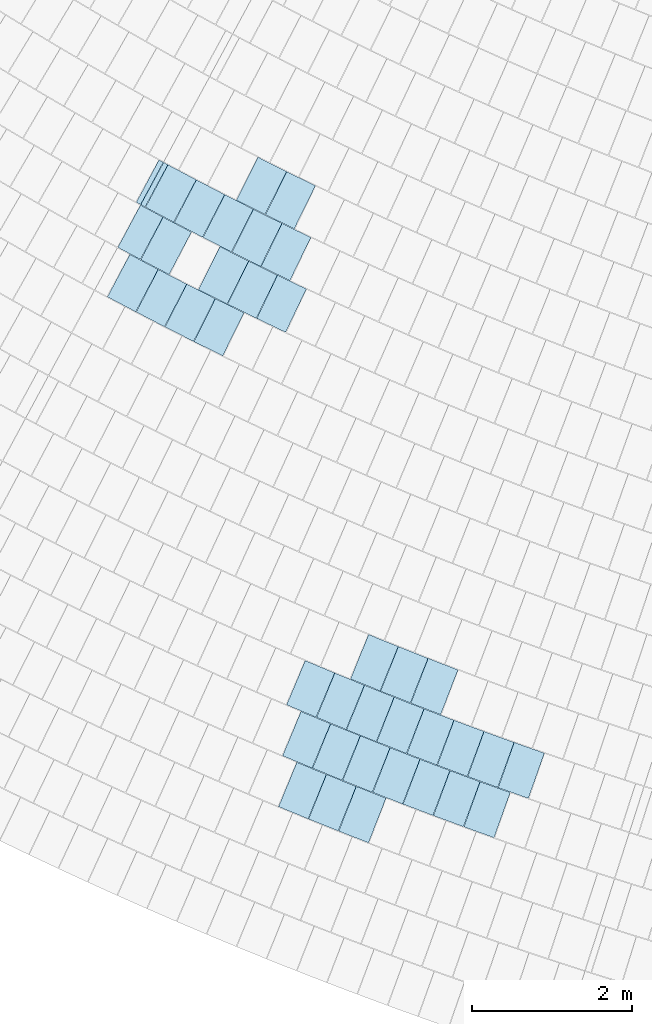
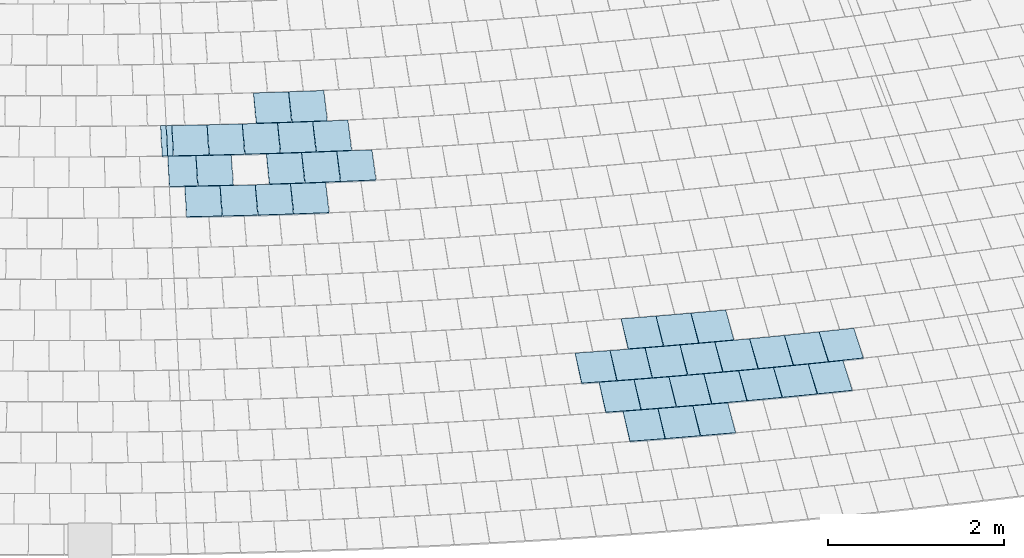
# One storey, part 107 of 438: 39 slabs.
"""IFC2X3 building model written with IfcOpenShell, lengths in millimetres."""

from ifc_helpers import new_model, entity, si_unit, converted_unit, derived_unit, direction, frame, origin, place, context, subcontext, project, spatial, polyline, outline, extrude, material, layer, layer_set, layer_usage, type_object, element, save


model = new_model("IFC2X3")

# Units and contexts
model_context = context("Model", 3, precision=0.01, world=origin(), true_north=direction((6.123031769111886e-17, 1.0)))
body_context = subcontext(model_context, "Body", "Model", "MODEL_VIEW")
ifc_project = project(units=[si_unit("LENGTHUNIT", "METRE", prefix="MILLI"), si_unit("AREAUNIT", "SQUARE_METRE"), si_unit("VOLUMEUNIT", "CUBIC_METRE"), converted_unit("PLANEANGLEUNIT", "DEGREE", entity("IfcRatioMeasure", 0.017453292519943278), si_unit("PLANEANGLEUNIT", "RADIAN"), dimensions=[0, 0, 0, 0, 0, 0, 0]), si_unit("MASSUNIT", "GRAM", prefix="KILO"), derived_unit("MASSDENSITYUNIT", [(si_unit("MASSUNIT", "GRAM", prefix="KILO"), 1), (si_unit("LENGTHUNIT", "METRE"), -3)]), derived_unit("MOMENTOFINERTIAUNIT", [(si_unit("LENGTHUNIT", "METRE"), 4)]), si_unit("TIMEUNIT", "SECOND"), si_unit("FREQUENCYUNIT", "HERTZ"), si_unit("THERMODYNAMICTEMPERATUREUNIT", "DEGREE_CELSIUS"), derived_unit("THERMALTRANSMITTANCEUNIT", [(si_unit("MASSUNIT", "GRAM", prefix="KILO"), 1), (si_unit("THERMODYNAMICTEMPERATUREUNIT", "KELVIN"), -1), (si_unit("TIMEUNIT", "SECOND"), -3)]), derived_unit("THERMALCONDUCTANCEUNIT", [(si_unit("MASSUNIT", "GRAM", prefix="KILO"), 1), (si_unit("LENGTHUNIT", "METRE"), 1), (si_unit("THERMODYNAMICTEMPERATUREUNIT", "KELVIN"), -1), (si_unit("TIMEUNIT", "SECOND"), -3)]), derived_unit("VOLUMETRICFLOWRATEUNIT", [(si_unit("LENGTHUNIT", "METRE"), 3), (si_unit("TIMEUNIT", "SECOND"), -1)]), derived_unit("MASSFLOWRATEUNIT", [(si_unit("MASSUNIT", "GRAM", prefix="KILO"), 1), (si_unit("TIMEUNIT", "SECOND"), -1)]), derived_unit("ROTATIONALFREQUENCYUNIT", [(si_unit("TIMEUNIT", "SECOND"), -1)]), si_unit("ELECTRICCURRENTUNIT", "AMPERE"), si_unit("ELECTRICVOLTAGEUNIT", "VOLT"), si_unit("POWERUNIT", "WATT"), converted_unit("FORCEUNIT", "KIP", entity("IfcRatioMeasure", 2.088543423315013e-05), si_unit("FORCEUNIT", "NEWTON"), dimensions=[1, 1, -2, 0, 0, 0, 0]), si_unit("ILLUMINANCEUNIT", "LUX"), si_unit("LUMINOUSFLUXUNIT", "LUMEN"), si_unit("LUMINOUSINTENSITYUNIT", "CANDELA"), derived_unit("USERDEFINED", [(si_unit("MASSUNIT", "GRAM", prefix="KILO"), -1), (si_unit("LENGTHUNIT", "METRE"), -2), (si_unit("TIMEUNIT", "SECOND"), 3), (si_unit("LUMINOUSFLUXUNIT", "LUMEN"), 1)]), derived_unit("USERDEFINED", [(si_unit("MASSUNIT", "GRAM", prefix="KILO"), 1), (si_unit("LENGTHUNIT", "METRE"), 3), (si_unit("TIMEUNIT", "SECOND"), -3), (si_unit("ELECTRICCURRENTUNIT", "AMPERE"), -2)]), derived_unit("USERDEFINED", [(si_unit("LENGTHUNIT", "METRE"), 2), (si_unit("TIMEUNIT", "SECOND"), -2)]), derived_unit("SOUNDPOWERUNIT", [(si_unit("MASSUNIT", "GRAM", prefix="KILO"), 1), (si_unit("LENGTHUNIT", "METRE"), 2), (si_unit("TIMEUNIT", "SECOND"), -3)]), derived_unit("SOUNDPRESSUREUNIT", [(si_unit("MASSUNIT", "GRAM", prefix="KILO"), 1), (si_unit("LENGTHUNIT", "METRE"), -1), (si_unit("TIMEUNIT", "SECOND"), -2)]), derived_unit("LINEARVELOCITYUNIT", [(si_unit("LENGTHUNIT", "METRE"), 1), (si_unit("TIMEUNIT", "SECOND"), -1)]), si_unit("PRESSUREUNIT", "PASCAL"), derived_unit("USERDEFINED", [(si_unit("LENGTHUNIT", "METRE"), -2), (si_unit("MASSUNIT", "GRAM", prefix="KILO"), 1), (si_unit("TIMEUNIT", "SECOND"), -2)]), derived_unit("LINEARFORCEUNIT", [(si_unit("MASSUNIT", "GRAM", prefix="KILO"), 1), (si_unit("LENGTHUNIT", "METRE"), 1), (si_unit("TIMEUNIT", "SECOND"), -2), (si_unit("LENGTHUNIT", "METRE"), -1)]), derived_unit("PLANARFORCEUNIT", [(si_unit("MASSUNIT", "GRAM", prefix="KILO"), 1), (si_unit("LENGTHUNIT", "METRE"), 1), (si_unit("TIMEUNIT", "SECOND"), -2), (si_unit("LENGTHUNIT", "METRE"), -2)]), derived_unit("SPECIFICHEATCAPACITYUNIT", [(si_unit("LENGTHUNIT", "METRE"), 2), (si_unit("TIMEUNIT", "SECOND"), -2), (si_unit("THERMODYNAMICTEMPERATUREUNIT", "KELVIN"), -1)]), derived_unit("VAPORPERMEABILITYUNIT", [(si_unit("TIMEUNIT", "SECOND"), 1), (si_unit("LENGTHUNIT", "METRE"), -1)]), derived_unit("DYNAMICVISCOSITYUNIT", [(si_unit("MASSUNIT", "GRAM", prefix="KILO"), 1), (si_unit("LENGTHUNIT", "METRE"), -1), (si_unit("TIMEUNIT", "SECOND"), -1)]), derived_unit("THERMALEXPANSIONCOEFFICIENTUNIT", [(si_unit("THERMODYNAMICTEMPERATUREUNIT", "KELVIN"), -1)])], contexts=[model_context])

# Site, building, storey
site_placement = place(None, frame((0.0, 0.0, 0.0), z_axis=(0.0, 0.0, 1.0), x_axis=(0.8191520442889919, 0.5735764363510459, 0.0)))
site = spatial("IfcSite", under=ifc_project, at=site_placement, Name="Default", CompositionType="ELEMENT")
building_placement = place(site_placement, origin())
building = spatial("IfcBuilding", under=site, at=building_placement, CompositionType="ELEMENT")
storey_placement = place(building_placement, origin())
storey = spatial("IfcBuildingStorey", under=building, at=storey_placement, Name="PLAN", CompositionType="ELEMENT", Elevation=0.0)

# Slabs
ifc_material = material(Name="Paint-01")
ifc_layer = layer(ifc_material, 20.00000000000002)
ifc_layer_set = layer_set([ifc_layer], Name="Floor:Slab-179:1000")
ifc_layer_usage = layer_usage(ifc_layer_set, "AXIS3", "POSITIVE", 0.0)
slab_type = type_object("IfcSlabType", Name="Floor:Slab-179:1000", PredefinedType="FLOOR", material=ifc_layer_set)
slab_1_placement = place(storey_placement, origin())
element("IfcSlab", 1, at=slab_1_placement, inside=storey, type_object=slab_type, material=ifc_layer_usage, Name="Floor:Slab-179:1000", ObjectType="Floor:Slab-179:1000", PredefinedType="FLOOR", context=body_context, shape_type="SweptSolid", body=[
    extrude(outline(polyline([(-299.9999988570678, -30.95622042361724), (299.9999985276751, -30.956220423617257), (299.9999988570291, 30.956220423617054), (-299.99999852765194, 30.95622042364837), (-299.9999988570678, -30.95622042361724)])), frame((-79903.60459932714, -87798.35302587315, 520.0), z_axis=(0.0, 0.0, -1.0), x_axis=(0.8921664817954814, 0.4517067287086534, 0.0)), (0.0, 0.0, 1.0), 20.000000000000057),
])
slab_2_placement = place(storey_placement, origin())
element("IfcSlab", 2, at=slab_2_placement, inside=storey, type_object=slab_type, material=ifc_layer_usage, Name="Floor:Slab-179:1000", ObjectType="Floor:Slab-179:1000", PredefinedType="FLOOR", context=body_context, shape_type="SweptSolid", body=[
    extrude(outline(polyline([(-200.00000453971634, -299.99999869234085), (200.00000134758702, -299.99999869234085), (200.00000453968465, 299.9999986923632), (-200.00000134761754, 299.9999986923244), (-200.00000453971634, -299.99999869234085)])), frame((-78787.41564259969, -88633.97235444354, 520.0), z_axis=(0.0, 0.0, -1.0), x_axis=(0.47364346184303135, -0.8807166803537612, 0.0)), (0.0, 0.0, 1.0), 19.99999999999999),
])
slab_3_placement = place(storey_placement, origin())
element("IfcSlab", 3, at=slab_3_placement, inside=storey, type_object=slab_type, material=ifc_layer_usage, Name="Floor:Slab-179:1000", ObjectType="Floor:Slab-179:1000", PredefinedType="FLOOR", context=body_context, shape_type="SweptSolid", body=[
    extrude(outline(polyline([(-200.00000453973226, -299.9999986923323), (200.0000013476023, -299.9999986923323), (200.00000453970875, 299.99999869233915), (-200.00000134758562, 299.9999986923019), (-200.00000453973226, -299.9999986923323)])), frame((-78595.00518241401, -88987.82879542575, 520.0), z_axis=(0.0, 0.0, -1.0), x_axis=(0.48174549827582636, -0.8763111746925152, 0.0)), (0.0, 0.0, 1.0), 19.99999999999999),
])
slab_4_placement = place(storey_placement, origin())
element("IfcSlab", 4, at=slab_4_placement, inside=storey, type_object=slab_type, material=ifc_layer_usage, Name="Floor:Slab-179:1000", ObjectType="Floor:Slab-179:1000", PredefinedType="FLOOR", context=body_context, shape_type="SweptSolid", body=[
    extrude(outline(polyline([(-30.948560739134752, -299.99999869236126), (30.948557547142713, -299.99999869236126), (30.94856073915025, 299.999998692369), (-30.948557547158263, 299.99999869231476), (-30.948560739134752, -299.99999869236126)])), frame((-79874.97191882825, -87855.34286787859, 520.0), z_axis=(0.0, 0.0, -1.0), x_axis=(0.4461711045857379, -0.8949476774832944, 0.0)), (0.0, 0.0, 1.0), 20.000000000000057),
])
slab_5_placement = place(storey_placement, origin())
element("IfcSlab", 5, at=slab_5_placement, inside=storey, type_object=slab_type, material=ifc_layer_usage, Name="Floor:Slab-179:1000", ObjectType="Floor:Slab-179:1000", PredefinedType="FLOOR", context=body_context, shape_type="SweptSolid", body=[
    extrude(outline(polyline([(-200.00000453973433, -299.9999986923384), (200.0000013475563, -299.9999986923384), (200.00000453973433, 299.9999986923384), (-200.00000134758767, 299.9999986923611), (-200.00000453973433, -299.9999986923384)])), frame((-79584.49260853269, -88421.57949068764, 520.0), z_axis=(0.0, 0.0, -1.0), x_axis=(0.4623754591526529, -0.8866842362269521, 0.0)), (0.0, 0.0, 1.0), 20.000000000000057),
])
slab_6_placement = place(storey_placement, origin())
element("IfcSlab", 6, at=slab_6_placement, inside=storey, type_object=slab_type, material=ifc_layer_usage, Name="Floor:Slab-179:1000", ObjectType="Floor:Slab-179:1000", PredefinedType="FLOOR", context=body_context, shape_type="SweptSolid", body=[
    extrude(outline(polyline([(-200.00000453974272, -299.9999986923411), (200.00000134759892, -299.99999869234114), (200.00000453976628, 299.99999869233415), (-200.00000134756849, 299.9999986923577), (-200.00000453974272, -299.9999986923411)])), frame((-79205.59685982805, -89132.33417369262, 520.0), z_axis=(0.0, 0.0, -1.0), x_axis=(0.47842682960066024, -0.8781274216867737, 0.0)), (0.0, 0.0, 1.0), 20.000000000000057),
])
slab_7_placement = place(storey_placement, origin())
element("IfcSlab", 7, at=slab_7_placement, inside=storey, type_object=slab_type, material=ifc_layer_usage, Name="Floor:Slab-179:1000", ObjectType="Floor:Slab-179:1000", PredefinedType="FLOOR", context=body_context, shape_type="SweptSolid", body=[
    extrude(outline(polyline([(-200.0000045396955, -299.9999986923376), (200.00000134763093, -299.9999986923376), (200.00000453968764, 299.999998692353), (-200.0000013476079, 299.99999869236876), (-200.0000045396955, -299.9999986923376)])), frame((-79769.07668731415, -88063.64706164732, 520.0), z_axis=(0.0, 0.0, -1.0), x_axis=(0.4542920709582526, -0.890852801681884, 0.0)), (0.0, 0.0, 1.0), 20.000000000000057),
])
slab_8_placement = place(storey_placement, origin())
element("IfcSlab", 8, at=slab_8_placement, inside=storey, type_object=slab_type, material=ifc_layer_usage, Name="Floor:Slab-179:1000", ObjectType="Floor:Slab-179:1000", PredefinedType="FLOOR", context=body_context, shape_type="SweptSolid", body=[
    extrude(outline(polyline([(-200.00000453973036, -299.9999986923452), (200.00000134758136, -299.9999986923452), (200.00000453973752, 299.9999986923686), (-200.00000134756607, 299.9999986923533), (-200.00000453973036, -299.9999986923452)])), frame((-79396.66082034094, -88777.81835050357, 520.0), z_axis=(0.0, 0.0, -1.0), x_axis=(0.4704206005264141, -0.8824423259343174, 0.0)), (0.0, 0.0, 1.0), 20.000000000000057),
])
slab_9_placement = place(storey_placement, origin())
element("IfcSlab", 9, at=slab_9_placement, inside=storey, type_object=slab_type, material=ifc_layer_usage, Name="Floor:Slab-179:1000", ObjectType="Floor:Slab-179:1000", PredefinedType="FLOOR", context=body_context, shape_type="SweptSolid", body=[
    extrude(outline(polyline([(-200.00000453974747, -299.9999986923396), (200.0000013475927, -299.9999986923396), (200.0000045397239, 299.9999986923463), (-200.0000013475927, 299.9999986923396), (-200.00000453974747, -299.9999986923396)])), frame((-79011.31653144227, -89485.09763537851, 520.0), z_axis=(0.0, 0.0, -1.0), x_axis=(0.4863934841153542, -0.8737398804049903, 0.0)), (0.0, 0.0, 1.0), 20.000000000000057),
])
slab_10_placement = place(storey_placement, origin())
element("IfcSlab", 10, at=slab_10_placement, inside=storey, type_object=slab_type, material=ifc_layer_usage, Name="Floor:Slab-179:1000", ObjectType="Floor:Slab-179:1000", PredefinedType="FLOOR", context=body_context, shape_type="SweptSolid", body=[
    extrude(outline(polyline([(-159.83571431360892, -299.9999986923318), (159.83571112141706, -299.9999986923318), (159.83571431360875, 299.9999986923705), (-159.83571112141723, 299.9999986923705), (-159.83571431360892, -299.9999986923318)])), frame((-80357.2576587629, -88241.73520474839, 520.0), z_axis=(0.0, 0.0, -1.0), x_axis=(0.45133787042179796, -0.8923531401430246, 0.0)), (0.0, 0.0, 1.0), 20.000000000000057),
])
slab_11_placement = place(storey_placement, origin())
element("IfcSlab", 11, at=slab_11_placement, inside=storey, type_object=slab_type, material=ifc_layer_usage, Name="Floor:Slab-179:1000", ObjectType="Floor:Slab-179:1000", PredefinedType="FLOOR", context=body_context, shape_type="SweptSolid", body=[
    extrude(outline(polyline([(-200.00000453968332, -299.9999986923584), (200.00000134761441, -299.99999869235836), (200.00000453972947, 299.9999986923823), (-200.0000013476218, 299.99999869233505), (-200.00000453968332, -299.9999986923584)])), frame((-80192.02714597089, -88564.41498265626, 520.0), z_axis=(0.0, 0.0, -1.0), x_axis=(0.45932540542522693, -0.8882680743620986, 0.0)), (0.0, 0.0, 1.0), 20.000000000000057),
])
slab_12_placement = place(storey_placement, origin())
element("IfcSlab", 12, at=slab_12_placement, inside=storey, type_object=slab_type, material=ifc_layer_usage, Name="Floor:Slab-179:1000", ObjectType="Floor:Slab-179:1000", PredefinedType="FLOOR", context=body_context, shape_type="SweptSolid", body=[
    extrude(outline(polyline([(-200.00000453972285, -299.9999986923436), (200.0000013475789, -299.99999869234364), (200.00000453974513, 299.9999986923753), (-200.00000134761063, 299.99999869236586), (-200.00000453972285, -299.9999986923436)])), frame((-79815.69860075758, -89276.44902668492, 520.0), z_axis=(0.0, 0.0, -1.0), x_axis=(0.4751889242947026, -0.8798837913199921, 0.0)), (0.0, 0.0, 1.0), 20.000000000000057),
])
slab_13_placement = place(storey_placement, origin())
element("IfcSlab", 13, at=slab_13_placement, inside=storey, type_object=slab_type, material=ifc_layer_usage, Name="Floor:Slab-179:1000", ObjectType="Floor:Slab-179:1000", PredefinedType="FLOOR", context=body_context, shape_type="SweptSolid", body=[
    extrude(outline(polyline([(-200.0000045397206, -299.9999986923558), (200.0000013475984, -299.9999986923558), (200.0000045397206, 299.9999986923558), (-200.0000013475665, 299.99999869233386), (-200.0000045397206, -299.9999986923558)])), frame((-79622.75852366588, -89629.90525176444, 520.0), z_axis=(0.0, 0.0, -1.0), x_axis=(0.4830636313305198, -0.8755852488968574, 0.0)), (0.0, 0.0, 1.0), 20.000000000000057),
])
slab_14_placement = place(storey_placement, origin())
element("IfcSlab", 14, at=slab_14_placement, inside=storey, type_object=slab_type, material=ifc_layer_usage, Name="Floor:Slab-179:1000", ObjectType="Floor:Slab-179:1000", PredefinedType="FLOOR", context=body_context, shape_type="SweptSolid", body=[
    extrude(outline(polyline([(-200.00000453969, -299.9999986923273), (200.0000013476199, -299.9999986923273), (200.00000453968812, 299.99999869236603), (-200.00000134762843, 299.9999986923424), (-200.00000453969, -299.9999986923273)])), frame((-79426.65519756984, -89981.6163006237, 520.0), z_axis=(0.0, 0.0, -1.0), x_axis=(0.4908994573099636, -0.8712162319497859, 0.0)), (0.0, 0.0, 1.0), 20.000000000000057),
])
slab_15_placement = place(storey_placement, origin())
element("IfcSlab", 15, at=slab_15_placement, inside=storey, type_object=slab_type, material=ifc_layer_usage, Name="Floor:Slab-179:1000", ObjectType="Floor:Slab-179:1000", PredefinedType="FLOOR", context=body_context, shape_type="SweptSolid", body=[
    extrude(outline(polyline([(-200.00000453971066, -299.9999986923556), (200.00000134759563, -299.9999986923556), (200.00000453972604, 299.9999986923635), (-200.00000134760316, 299.99999869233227), (-200.00000453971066, -299.9999986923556)])), frame((-80799.09072233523, -88707.03794588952, 520.0), z_axis=(0.0, 0.0, -1.0), x_axis=(0.4563518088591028, -0.8897994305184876, 0.0)), (0.0, 0.0, 1.0), 19.99999999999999),
])
slab_16_placement = place(storey_placement, origin())
element("IfcSlab", 16, at=slab_16_placement, inside=storey, type_object=slab_type, material=ifc_layer_usage, Name="Floor:Slab-179:1000", ObjectType="Floor:Slab-179:1000", PredefinedType="FLOOR", context=body_context, shape_type="SweptSolid", body=[
    extrude(outline(polyline([(-200.00000453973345, -299.9999986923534), (200.00000134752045, -299.9999986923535), (200.00000453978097, 299.9999986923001), (-200.0000013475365, 299.9999986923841), (-200.00000453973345, -299.9999986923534)])), frame((-80613.75613222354, -89064.50029921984, 520.0), z_axis=(0.0, 0.0, -1.0), x_axis=(0.4642098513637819, -0.8857252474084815, 0.0)), (0.0, 0.0, 1.0), 20.000000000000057),
])
slab_17_placement = place(storey_placement, origin())
element("IfcSlab", 17, at=slab_17_placement, inside=storey, type_object=slab_type, material=ifc_layer_usage, Name="Floor:Slab-179:1000", ObjectType="Floor:Slab-179:1000", PredefinedType="FLOOR", context=body_context, shape_type="SweptSolid", body=[
    extrude(outline(polyline([(-200.00000453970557, -299.9999986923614), (200.00000134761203, -299.9999986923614), (200.00000453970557, 299.9999986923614), (-200.00000134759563, 299.99999869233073), (-200.00000453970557, -299.9999986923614)])), frame((-80425.26478064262, -89420.30818940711, 520.0), z_axis=(0.0, 0.0, -1.0), x_axis=(0.4720315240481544, -0.8815816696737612, 0.0)), (0.0, 0.0, 1.0), 20.000000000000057),
])
slab_18_placement = place(storey_placement, origin())
element("IfcSlab", 18, at=slab_18_placement, inside=storey, type_object=slab_type, material=ifc_layer_usage, Name="Floor:Slab-179:1000", ObjectType="Floor:Slab-179:1000", PredefinedType="FLOOR", context=body_context, shape_type="SweptSolid", body=[
    extrude(outline(polyline([(-200.00000453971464, -299.9999986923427), (200.00000134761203, -299.9999986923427), (200.00000453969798, 299.9999986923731), (-200.0000013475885, 299.99999869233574), (-200.00000453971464, -299.9999986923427)])), frame((-80233.63143547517, -89774.43373968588, 520.0), z_axis=(0.0, 0.0, -1.0), x_axis=(0.4798162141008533, -0.8773690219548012, 0.0)), (0.0, 0.0, 1.0), 20.000000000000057),
])
slab_19_placement = place(storey_placement, origin())
element("IfcSlab", 19, at=slab_19_placement, inside=storey, type_object=slab_type, material=ifc_layer_usage, Name="Floor:Slab-179:1000", ObjectType="Floor:Slab-179:1000", PredefinedType="FLOOR", context=body_context, shape_type="SweptSolid", body=[
    extrude(outline(polyline([(-200.00000453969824, -299.9999986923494), (200.00000134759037, -299.9999986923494), (200.00000453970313, 299.99999869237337), (-200.00000134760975, 299.99999869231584), (-200.00000453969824, -299.9999986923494)])), frame((-80826.67847538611, -94651.25555229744, 520.0), z_axis=(0.0, 0.0, -1.0), x_axis=(0.5504207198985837, -0.8348874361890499, 0.0)), (0.0, 0.0, 1.0), 20.000000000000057),
])
slab_20_placement = place(storey_placement, origin())
element("IfcSlab", 20, at=slab_20_placement, inside=storey, type_object=slab_type, material=ifc_layer_usage, Name="Floor:Slab-179:1000", ObjectType="Floor:Slab-179:1000", PredefinedType="FLOOR", context=body_context, shape_type="SweptSolid", body=[
    extrude(outline(polyline([(-200.0000045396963, -299.9999986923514), (200.00000134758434, -299.9999986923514), (200.00000453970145, 299.9999986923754), (-200.00000134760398, 299.99999869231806), (-200.0000045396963, -299.9999986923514)])), frame((-81046.81900265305, -94314.30950077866, 520.0), z_axis=(0.0, 0.0, -1.0), x_axis=(0.5434755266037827, -0.8394250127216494, 0.0)), (0.0, 0.0, 1.0), 20.000000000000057),
])
slab_21_placement = place(storey_placement, origin())
element("IfcSlab", 21, at=slab_21_placement, inside=storey, type_object=slab_type, material=ifc_layer_usage, Name="Floor:Slab-179:1000", ObjectType="Floor:Slab-179:1000", PredefinedType="FLOOR", context=body_context, shape_type="SweptSolid", body=[
    extrude(outline(polyline([(-200.00000453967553, -299.9999986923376), (200.0000013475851, -299.9999986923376), (200.00000453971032, 299.9999986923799), (-200.00000134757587, 299.9999986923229), (-200.00000453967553, -299.9999986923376)])), frame((-81885.01980198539, -94125.8162695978, 520.0), z_axis=(0.0, 0.0, -1.0), x_axis=(0.5329442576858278, -0.8461503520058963, 0.0)), (0.0, 0.0, 1.0), 20.000000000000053),
])
slab_22_placement = place(storey_placement, origin())
element("IfcSlab", 22, at=slab_22_placement, inside=storey, type_object=slab_type, material=ifc_layer_usage, Name="Floor:Slab-179:1000", ObjectType="Floor:Slab-179:1000", PredefinedType="FLOOR", context=body_context, shape_type="SweptSolid", body=[
    extrude(outline(polyline([(-200.00000453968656, -299.99999869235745), (200.00000134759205, -299.99999869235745), (200.0000045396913, 299.9999986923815), (-200.00000134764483, 299.99999869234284), (-200.00000453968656, -299.99999869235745)])), frame((-80603.75020892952, -94986.36371602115, 520.0), z_axis=(0.0, 0.0, -1.0), x_axis=(0.5573280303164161, -0.8302923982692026, 0.0)), (0.0, 0.0, 1.0), 20.000000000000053),
])
slab_23_placement = place(storey_placement, origin())
element("IfcSlab", 23, at=slab_23_placement, inside=storey, type_object=slab_type, material=ifc_layer_usage, Name="Floor:Slab-179:1000", ObjectType="Floor:Slab-179:1000", PredefinedType="FLOOR", context=body_context, shape_type="SweptSolid", body=[
    extrude(outline(polyline([(-200.00000453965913, -299.9999986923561), (200.00000134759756, -299.9999986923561), (200.00000453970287, 299.99999869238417), (-200.00000134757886, 299.9999986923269), (-200.00000453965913, -299.9999986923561)])), frame((-81669.14065125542, -94465.47187127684, 520.0), z_axis=(0.0, 0.0, -1.0), x_axis=(0.5398590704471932, -0.8417554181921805, 0.0)), (0.0, 0.0, 1.0), 20.000000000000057),
])
slab_24_placement = place(storey_placement, origin())
element("IfcSlab", 24, at=slab_24_placement, inside=storey, type_object=slab_type, material=ifc_layer_usage, Name="Floor:Slab-179:1000", ObjectType="Floor:Slab-179:1000", PredefinedType="FLOOR", context=body_context, shape_type="SweptSolid", body=[
    extrude(outline(polyline([(-200.0000045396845, -299.99999869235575), (200.00000134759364, -299.99999869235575), (200.000004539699, 299.9999986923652), (-200.00000134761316, 299.9999986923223), (-200.0000045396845, -299.99999869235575)])), frame((-81450.485871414, -94803.34732573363, 520.0), z_axis=(0.0, 0.0, -1.0), x_axis=(0.5467376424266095, -0.8373039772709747, 0.0)), (0.0, 0.0, 1.0), 19.99999999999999),
])
slab_25_placement = place(storey_placement, origin())
element("IfcSlab", 25, at=slab_25_placement, inside=storey, type_object=slab_type, material=ifc_layer_usage, Name="Floor:Slab-179:1000", ObjectType="Floor:Slab-179:1000", PredefinedType="FLOOR", context=body_context, shape_type="SweptSolid", body=[
    extrude(outline(polyline([(-200.00000453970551, -299.99999869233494), (200.00000134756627, -299.999998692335), (200.0000045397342, 299.9999986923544), (-200.0000013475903, 299.9999986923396), (-200.00000453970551, -299.99999869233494)])), frame((-81004.90832299, -95473.66718758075, 520.0), z_axis=(0.0, 0.0, -1.0), x_axis=(0.5603842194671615, -0.8282327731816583, 0.0)), (0.0, 0.0, 1.0), 20.000000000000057),
])
slab_26_placement = place(storey_placement, origin())
element("IfcSlab", 26, at=slab_26_placement, inside=storey, type_object=slab_type, material=ifc_layer_usage, Name="Floor:Slab-179:1000", ObjectType="Floor:Slab-179:1000", PredefinedType="FLOOR", context=body_context, shape_type="SweptSolid", body=[
    extrude(outline(polyline([(-200.000004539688, -299.9999986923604), (200.000001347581, -299.99999869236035), (200.000004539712, 299.9999986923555), (-200.00000134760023, 299.9999986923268), (-200.000004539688, -299.9999986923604)])), frame((-81229.07014077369, -95139.41995136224, 520.0), z_axis=(0.0, 0.0, -1.0), x_axis=(0.5535795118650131, -0.83279632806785, 0.0)), (0.0, 0.0, 1.0), 19.99999999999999),
])
slab_27_placement = place(storey_placement, origin())
element("IfcSlab", 27, at=slab_27_placement, inside=storey, type_object=slab_type, material=ifc_layer_usage, Name="Floor:Slab-179:1000", ObjectType="Floor:Slab-179:1000", PredefinedType="FLOOR", context=body_context, shape_type="SweptSolid", body=[
    extrude(outline(polyline([(-299.99999762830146, -200.00000294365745), (300.0, -200.00000294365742), (299.9999976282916, 200.00000294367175), (-300.0, 200.00000294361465), (-299.99999762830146, -200.00000294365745)])), frame((-80778.01546606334, -95806.06659634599, 520.0), z_axis=(0.0, 0.0, -1.0), x_axis=(-0.8236136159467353, -0.5671513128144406, 0.0)), (0.0, 0.0, 1.0), 20.000000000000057),
])
slab_28_placement = place(storey_placement, origin())
element("IfcSlab", 28, at=slab_28_placement, inside=storey, type_object=slab_type, material=ifc_layer_usage, Name="Floor:Slab-179:1000", ObjectType="Floor:Slab-179:1000", PredefinedType="FLOOR", context=body_context, shape_type="SweptSolid", body=[
    extrude(outline(polyline([(-299.99999762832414, -200.0000029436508), (300.0, -200.00000294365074), (299.99999762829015, 200.0000029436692), (-300.0, 200.00000294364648), (-299.99999762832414, -200.0000029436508)])), frame((-80548.40680132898, -96136.59586365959, 520.0), z_axis=(0.0, 0.0, -1.0), x_axis=(-0.8189391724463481, -0.5738803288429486, 0.0)), (0.0, 0.0, 1.0), 20.000000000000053),
])
slab_29_placement = place(storey_placement, origin())
element("IfcSlab", 29, at=slab_29_placement, inside=storey, type_object=slab_type, material=ifc_layer_usage, Name="Floor:Slab-179:1000", ObjectType="Floor:Slab-179:1000", PredefinedType="FLOOR", context=body_context, shape_type="SweptSolid", body=[
    extrude(outline(polyline([(-299.99999762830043, -200.00000294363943), (300.0, -200.00000294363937), (299.9999976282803, 200.00000294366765), (-300.0, 200.00000294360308), (-299.99999762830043, -200.00000294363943)])), frame((-80316.09774243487, -96465.23280106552, 520.0), z_axis=(0.0, 0.0, -1.0), x_axis=(-0.8142097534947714, -0.58057082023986, 0.0)), (0.0, 0.0, 1.0), 20.000000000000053),
])
slab_30_placement = place(storey_placement, origin())
element("IfcSlab", 30, at=slab_30_placement, inside=storey, type_object=slab_type, material=ifc_layer_usage, Name="Floor:Slab-179:1000", ObjectType="Floor:Slab-179:1000", PredefinedType="FLOOR", context=body_context, shape_type="SweptSolid", body=[
    extrude(outline(polyline([(-200.00000453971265, -299.9999986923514), (200.00000134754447, -299.99999869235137), (200.00000453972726, 299.9999986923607), (-200.00000134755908, 299.9999986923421), (-200.00000453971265, -299.9999986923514)])), frame((-82290.6987099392, -94616.18194504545, 520.0), z_axis=(0.0, 0.0, -1.0), x_axis=(0.5363215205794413, -0.8440137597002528, 0.0)), (0.0, 0.0, 1.0), 20.000000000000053),
])
slab_31_placement = place(storey_placement, origin())
element("IfcSlab", 31, at=slab_31_placement, inside=storey, type_object=slab_type, material=ifc_layer_usage, Name="Floor:Slab-179:1000", ObjectType="Floor:Slab-179:1000", PredefinedType="FLOOR", context=body_context, shape_type="SweptSolid", body=[
    extrude(outline(polyline([(-200.00000453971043, -299.99999869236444), (200.00000134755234, -299.99999869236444), (200.00000453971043, 299.99999869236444), (-200.0000013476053, 299.99999869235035), (-200.00000453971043, -299.99999869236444)])), frame((-81853.56087604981, -95291.9646364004, 520.0), z_axis=(0.0, 0.0, -1.0), x_axis=(0.5499119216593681, -0.8352226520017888, 0.0)), (0.0, 0.0, 1.0), 20.000000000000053),
])
slab_32_placement = place(storey_placement, origin())
element("IfcSlab", 32, at=slab_32_placement, inside=storey, type_object=slab_type, material=ifc_layer_usage, Name="Floor:Slab-179:1000", ObjectType="Floor:Slab-179:1000", PredefinedType="FLOOR", context=body_context, shape_type="SweptSolid", body=[
    extrude(outline(polyline([(-200.00000453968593, -299.9999986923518), (200.0000013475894, -299.9999986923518), (200.0000045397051, 299.99999869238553), (-200.00000134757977, 299.99999869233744), (-200.00000453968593, -299.9999986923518)])), frame((-81630.9044965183, -95627.18056877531, 520.0), z_axis=(0.0, 0.0, -1.0), x_axis=(0.5566533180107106, -0.8307448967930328, 0.0)), (0.0, 0.0, 1.0), 20.000000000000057),
])
slab_33_placement = place(storey_placement, origin())
element("IfcSlab", 33, at=slab_33_placement, inside=storey, type_object=slab_type, material=ifc_layer_usage, Name="Floor:Slab-179:1000", ObjectType="Floor:Slab-179:1000", PredefinedType="FLOOR", context=body_context, shape_type="SweptSolid", body=[
    extrude(outline(polyline([(-299.9999976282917, -200.00000294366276), (300.0, -200.00000294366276), (299.9999976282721, 200.00000294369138), (-300.0, 200.00000294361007), (-299.9999976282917, -200.00000294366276)])), frame((-81405.54252689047, -95960.58357912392, 520.0), z_axis=(0.0, 0.0, -1.0), x_axis=(-0.8262127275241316, -0.5633582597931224, 0.0)), (0.0, 0.0, 1.0), 20.000000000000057),
])
slab_34_placement = place(storey_placement, origin())
element("IfcSlab", 34, at=slab_34_placement, inside=storey, type_object=slab_type, material=ifc_layer_usage, Name="Floor:Slab-179:1000", ObjectType="Floor:Slab-179:1000", PredefinedType="FLOOR", context=body_context, shape_type="SweptSolid", body=[
    extrude(outline(polyline([(-299.99999762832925, -200.0000029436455), (300.0, -200.0000029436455), (299.99999762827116, 200.00000294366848), (-300.0, 200.0000029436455), (-299.99999762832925, -200.0000029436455)])), frame((-81177.48972763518, -96292.15183064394, 520.0), z_axis=(0.0, 0.0, -1.0), x_axis=(-0.8216264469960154, -0.5700262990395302, 0.0)), (0.0, 0.0, 1.0), 19.99999999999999),
])
slab_35_placement = place(storey_placement, origin())
element("IfcSlab", 35, at=slab_35_placement, inside=storey, type_object=slab_type, material=ifc_layer_usage, Name="Floor:Slab-179:1000", ObjectType="Floor:Slab-179:1000", PredefinedType="FLOOR", context=body_context, shape_type="SweptSolid", body=[
    extrude(outline(polyline([(-299.9999976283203, -200.0000029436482), (300.0, -200.00000294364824), (299.9999976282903, 200.00000294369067), (-300.0, 200.00000294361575), (-299.9999976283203, -200.0000029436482)])), frame((-80946.76103546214, -96621.86360670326, 520.0), z_axis=(0.0, 0.0, -1.0), x_axis=(-0.8169863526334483, -0.576657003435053, 0.0)), (0.0, 0.0, 1.0), 20.000000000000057),
])
slab_36_placement = place(storey_placement, origin())
element("IfcSlab", 36, at=slab_36_placement, inside=storey, type_object=slab_type, material=ifc_layer_usage, Name="Floor:Slab-179:1000", ObjectType="Floor:Slab-179:1000", PredefinedType="FLOOR", context=body_context, shape_type="SweptSolid", body=[
    extrude(outline(polyline([(-200.00000453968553, -299.99999869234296), (200.00000134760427, -299.9999986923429), (200.00000453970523, 299.9999986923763), (-200.00000134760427, 299.9999986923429), (-200.00000453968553, -299.99999869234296)])), frame((-82073.49708222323, -94954.95773754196, 520.0), z_axis=(0.0, 0.0, -1.0), x_axis=(0.5431345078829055, -0.8396457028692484, 0.0)), (0.0, 0.0, 1.0), 20.000000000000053),
])
slab_37_placement = place(storey_placement, origin())
element("IfcSlab", 37, at=slab_37_placement, inside=storey, type_object=slab_type, material=ifc_layer_usage, Name="Floor:Slab-179:1000", ObjectType="Floor:Slab-179:1000", PredefinedType="FLOOR", context=body_context, shape_type="SweptSolid", body=[
    extrude(outline(polyline([(-200.000004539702, -299.9999986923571), (200.00000134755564, -299.9999986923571), (200.0000045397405, 299.9999986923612), (-200.00000134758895, 299.9999986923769), (-200.000004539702, -299.9999986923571)])), frame((-82695.73906021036, -95106.10759022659, 520.0), z_axis=(0.0, 0.0, -1.0), x_axis=(0.5396088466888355, -0.8419158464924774, 0.0)), (0.0, 0.0, 1.0), 20.000000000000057),
])
slab_38_placement = place(storey_placement, origin())
element("IfcSlab", 38, at=slab_38_placement, inside=storey, type_object=slab_type, material=ifc_layer_usage, Name="Floor:Slab-179:1000", ObjectType="Floor:Slab-179:1000", PredefinedType="FLOOR", context=body_context, shape_type="SweptSolid", body=[
    extrude(outline(polyline([(-200.0000045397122, -299.9999986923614), (200.00000134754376, -299.9999986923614), (200.00000453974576, 299.99999869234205), (-200.0000013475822, 299.99999869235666), (-200.0000045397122, -299.9999986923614)])), frame((-82256.06707503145, -95780.17455323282, 520.0), z_axis=(0.0, 0.0, -1.0), x_axis=(0.5530017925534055, -0.8331800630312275, 0.0)), (0.0, 0.0, 1.0), 20.000000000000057),
])
slab_39_placement = place(storey_placement, origin())
element("IfcSlab", 39, at=slab_39_placement, inside=storey, type_object=slab_type, material=ifc_layer_usage, Name="Floor:Slab-179:1000", ObjectType="Floor:Slab-179:1000", PredefinedType="FLOOR", context=body_context, shape_type="SweptSolid", body=[
    extrude(outline(polyline([(-200.0000045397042, -299.9999986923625), (200.00000134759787, -299.9999986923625), (200.00000453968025, 299.99999869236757), (-200.00000134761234, 299.9999986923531), (-200.0000045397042, -299.9999986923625)])), frame((-82477.25039317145, -95444.01988842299, 520.0), z_axis=(0.0, 0.0, -1.0), x_axis=(0.5463227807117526, -0.8375747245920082, 0.0)), (0.0, 0.0, 1.0), 20.000000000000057),
])

save(model, "model.ifc")
